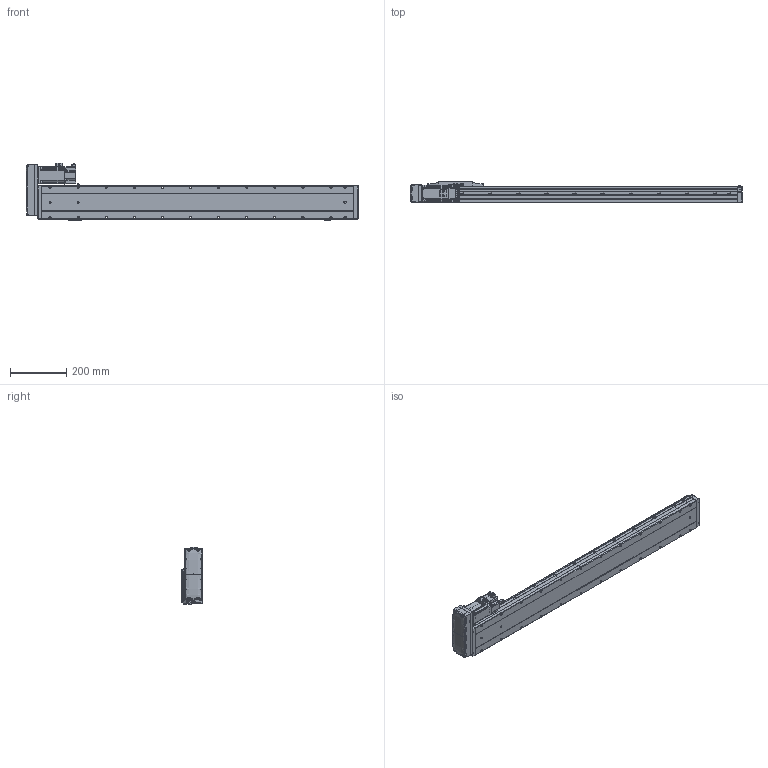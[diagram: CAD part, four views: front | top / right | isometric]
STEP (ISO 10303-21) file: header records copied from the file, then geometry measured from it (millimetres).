
FILE_DESCRIPTION (( 'STEP AP214' ), '1' );
FILE_NAME ('CTH12-L10-S900-BL-C40（简）.STEP', '2023-02-06T03:37:26', ( '' ), ( '' ), 'SwSTEP 2.0', 'SolidWorks 2018', '' );
FILE_SCHEMA (( 'AUTOMOTIVE_DESIGN' ));
Length unit declared in the file: millimetre
Products named in the file (24): CTH12-L10-S900-BL-C40（简）; CTH12賑怢ㄗ潠ㄘ; CTH400W假蚾啣; CTH12侧装连接板（标准）简; 嫖萇羲壽郪磁2; M5蹟隊; 内六角圆柱头螺钉M3-2; 湮賑怢  裔赽-1(CTH12)賑怢; CTH400W垫板（3个厚）; CTH12_body_3; CTH12賑怢郪磁; CTH12; CTH12耜蚾裔; CTH嫖萇羲壽假蚾啣; 400W萇儂; hex nuts, style 1-grades ab gb_GB_FASTENER_NUT_SNAB1 M3-N; 嫖萇羲壽郪磁1; CTH12底座-L1111简（900行程）; 内六角圆柱头螺钉M3-1; CTH12覜茼え; CTH12-BL_body_4; 蚐郲; 内六角圆柱头螺钉M3; PM-Y45
Assembly tree (44 placements, depth 4):
  CTH12-L10-S900-BL-C40（简）
    CTH12底座-L1111简（900行程）
    蚐郲  x2
    CTH12_body_3
    CTH12-BL_body_4
    CTH12侧装连接板（标准）简
    CTH12耜蚾裔
    CTH12賑怢郪磁
      CTH12
        湮賑怢  裔赽-1(CTH12)賑怢
        CTH12賑怢ㄗ潠ㄘ
    CTH12覜茼え
    CTH400W垫板（3个厚）
    400W萇儂
    内六角圆柱头螺钉M3  x6
    M5蹟隊  x4
    嫖萇羲壽郪磁1
      CTH嫖萇羲壽假蚾啣
      PM-Y45
      内六角圆柱头螺钉M3-2  x2
      内六角圆柱头螺钉M3-1  x2
      hex nuts, style 1-grades ab gb_GB_FASTENER_NUT_SNAB1 M3-N  x2
    嫖萇羲壽郪磁2  x2
      CTH嫖萇羲壽假蚾啣
      PM-Y45
      内六角圆柱头螺钉M3-1
      内六角圆柱头螺钉M3-2
      hex nuts, style 1-grades ab gb_GB_FASTENER_NUT_SNAB1 M3-N
    CTH400W假蚾啣
Bounding box: 1181.5 x 76 x 205.26 mm (x, y, z)
Volume: 7892144.9 mm3; surface area: 771857.2 mm2
Topology: 47 solids, 48 shells, 3344 faces, 8355 edges, 5233 vertices
Faces by surface type: plane 1610, cylinder 953, cone 463, bspline 190, torus 124, sphere 4
Entity records: 110474 total; most frequent: CARTESIAN_POINT 40906, ORIENTED_EDGE 13812, DIRECTION 13088, EDGE_CURVE 6906, AXIS2_PLACEMENT_3D 4592, VERTEX_POINT 4337, LINE 3904, VECTOR 3904
